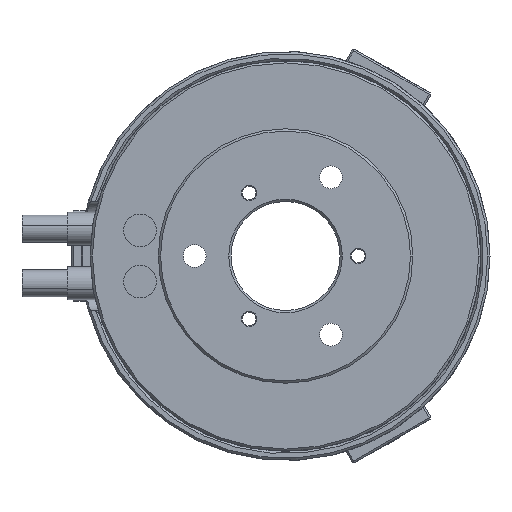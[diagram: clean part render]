
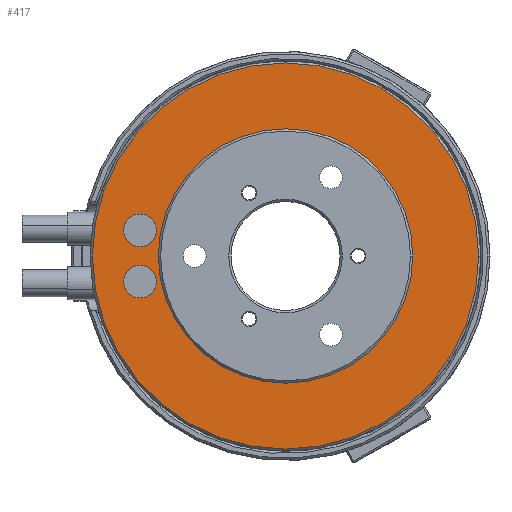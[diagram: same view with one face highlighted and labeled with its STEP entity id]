
A CAD part, front view. The second image highlights one B-rep face of the part: STEP entity #417.
In plain terms, the highlighted planar face has unit normal (0, -1, 0).
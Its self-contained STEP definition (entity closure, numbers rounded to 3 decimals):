
#352 = ORIENTED_EDGE ( 'NONE', *, *, #8682, .F. ) ;
#417 = ADVANCED_FACE ( 'NONE', ( #8531, #972, #8790, #1209 ), #3510, .T. ) ;
#452 = DIRECTION ( 'NONE',  ( 1., 0., 0. ) ) ;
#555 = VERTEX_POINT ( 'NONE', #4580 ) ;
#808 = CIRCLE ( 'NONE', #2832, 1.8 ) ;
#972 = FACE_BOUND ( 'NONE', #1405, .T. ) ;
#1199 = DIRECTION ( 'NONE',  ( 1., 0., 0. ) ) ;
#1209 = FACE_BOUND ( 'NONE', #4243, .T. ) ;
#1379 = DIRECTION ( 'NONE',  ( 0., 0., -1. ) ) ;
#1386 = CARTESIAN_POINT ( 'NONE',  ( -16.003, -12., -1.022 ) ) ;
#1405 = EDGE_LOOP ( 'NONE', ( #4850, #5040 ) ) ;
#1691 = AXIS2_PLACEMENT_3D ( 'NONE', #4004, #2498, #8750 ) ;
#1742 = AXIS2_PLACEMENT_3D ( 'NONE', #6294, #7081, #2396 ) ;
#2013 = CARTESIAN_POINT ( 'NONE',  ( -16.003, -12., -4.622 ) ) ;
#2179 = CARTESIAN_POINT ( 'NONE',  ( -16.003, -12., 2.822 ) ) ;
#2183 = EDGE_LOOP ( 'NONE', ( #2880, #4357 ) ) ;
#2243 = VERTEX_POINT ( 'NONE', #3917 ) ;
#2301 = EDGE_CURVE ( 'NONE', #5786, #8764, #7515, .T. ) ;
#2363 = AXIS2_PLACEMENT_3D ( 'NONE', #4811, #4776, #3266 ) ;
#2396 = DIRECTION ( 'NONE',  ( 1., 0., 0. ) ) ;
#2498 = DIRECTION ( 'NONE',  ( 0., -1., 0. ) ) ;
#2584 = EDGE_LOOP ( 'NONE', ( #5545, #8310 ) ) ;
#2832 = AXIS2_PLACEMENT_3D ( 'NONE', #2179, #3592, #1379 ) ;
#2854 = EDGE_CURVE ( 'NONE', #10010, #2243, #3391, .T. ) ;
#2880 = ORIENTED_EDGE ( 'NONE', *, *, #2854, .T. ) ;
#2990 = EDGE_CURVE ( 'NONE', #2243, #10010, #4372, .T. ) ;
#3244 = CIRCLE ( 'NONE', #8479, 1.8 ) ;
#3266 = DIRECTION ( 'NONE',  ( 1., 0., 0. ) ) ;
#3352 = CIRCLE ( 'NONE', #7863, 14. ) ;
#3391 = CIRCLE ( 'NONE', #6818, 21.25 ) ;
#3510 = PLANE ( 'NONE',  #7826 ) ;
#3592 = DIRECTION ( 'NONE',  ( 0., -1., 0. ) ) ;
#3640 = DIRECTION ( 'NONE',  ( 0., -1., 0. ) ) ;
#3677 = VERTEX_POINT ( 'NONE', #8864 ) ;
#3765 = CARTESIAN_POINT ( 'NONE',  ( 0., -12., 0. ) ) ;
#3895 = DIRECTION ( 'NONE',  ( 1., 0., 0. ) ) ;
#3917 = CARTESIAN_POINT ( 'NONE',  ( 21.25, -12., 0. ) ) ;
#3965 = CARTESIAN_POINT ( 'NONE',  ( -16.003, -12., 4.622 ) ) ;
#4004 = CARTESIAN_POINT ( 'NONE',  ( -16.003, -12., -2.822 ) ) ;
#4243 = EDGE_LOOP ( 'NONE', ( #352, #6033 ) ) ;
#4357 = ORIENTED_EDGE ( 'NONE', *, *, #2990, .T. ) ;
#4372 = CIRCLE ( 'NONE', #1742, 21.25 ) ;
#4580 = CARTESIAN_POINT ( 'NONE',  ( -14., -12., 0. ) ) ;
#4776 = DIRECTION ( 'NONE',  ( 0., -1., 0. ) ) ;
#4786 = DIRECTION ( 'NONE',  ( 0., 0., -1. ) ) ;
#4811 = CARTESIAN_POINT ( 'NONE',  ( 0., -12., 0. ) ) ;
#4850 = ORIENTED_EDGE ( 'NONE', *, *, #8705, .F. ) ;
#4888 = VERTEX_POINT ( 'NONE', #1386 ) ;
#5040 = ORIENTED_EDGE ( 'NONE', *, *, #10079, .F. ) ;
#5102 = CARTESIAN_POINT ( 'NONE',  ( 0., -12., 0. ) ) ;
#5232 = CARTESIAN_POINT ( 'NONE',  ( -16.003, -12., 2.822 ) ) ;
#5545 = ORIENTED_EDGE ( 'NONE', *, *, #2301, .F. ) ;
#5786 = VERTEX_POINT ( 'NONE', #10105 ) ;
#6033 = ORIENTED_EDGE ( 'NONE', *, *, #9933, .F. ) ;
#6294 = CARTESIAN_POINT ( 'NONE',  ( 0., -12., 0. ) ) ;
#6463 = CIRCLE ( 'NONE', #1691, 1.8 ) ;
#6602 = CIRCLE ( 'NONE', #2363, 14. ) ;
#6803 = DIRECTION ( 'NONE',  ( 0., 0., -1. ) ) ;
#6818 = AXIS2_PLACEMENT_3D ( 'NONE', #3765, #9365, #3895 ) ;
#7004 = CARTESIAN_POINT ( 'NONE',  ( -21.25, -12., 0. ) ) ;
#7081 = DIRECTION ( 'NONE',  ( 0., -1., 0. ) ) ;
#7515 = CIRCLE ( 'NONE', #9106, 1.8 ) ;
#7555 = CARTESIAN_POINT ( 'NONE',  ( 21.5, -12., 0. ) ) ;
#7826 = AXIS2_PLACEMENT_3D ( 'NONE', #7555, #9103, #1199 ) ;
#7863 = AXIS2_PLACEMENT_3D ( 'NONE', #5102, #9931, #452 ) ;
#7980 = CARTESIAN_POINT ( 'NONE',  ( -16.003, -12., -2.822 ) ) ;
#8021 = DIRECTION ( 'NONE',  ( 0., -1., 0. ) ) ;
#8057 = VERTEX_POINT ( 'NONE', #2013 ) ;
#8310 = ORIENTED_EDGE ( 'NONE', *, *, #9676, .F. ) ;
#8479 = AXIS2_PLACEMENT_3D ( 'NONE', #7980, #8021, #4786 ) ;
#8531 = FACE_BOUND ( 'NONE', #2584, .T. ) ;
#8682 = EDGE_CURVE ( 'NONE', #3677, #555, #6602, .T. ) ;
#8705 = EDGE_CURVE ( 'NONE', #8057, #4888, #6463, .T. ) ;
#8750 = DIRECTION ( 'NONE',  ( 0., 0., -1. ) ) ;
#8764 = VERTEX_POINT ( 'NONE', #3965 ) ;
#8790 = FACE_OUTER_BOUND ( 'NONE', #2183, .T. ) ;
#8864 = CARTESIAN_POINT ( 'NONE',  ( 14., -12., 0. ) ) ;
#9103 = DIRECTION ( 'NONE',  ( 0., -1., 0. ) ) ;
#9106 = AXIS2_PLACEMENT_3D ( 'NONE', #5232, #3640, #6803 ) ;
#9365 = DIRECTION ( 'NONE',  ( 0., -1., 0. ) ) ;
#9676 = EDGE_CURVE ( 'NONE', #8764, #5786, #808, .T. ) ;
#9931 = DIRECTION ( 'NONE',  ( 0., -1., 0. ) ) ;
#9933 = EDGE_CURVE ( 'NONE', #555, #3677, #3352, .T. ) ;
#10010 = VERTEX_POINT ( 'NONE', #7004 ) ;
#10079 = EDGE_CURVE ( 'NONE', #4888, #8057, #3244, .T. ) ;
#10105 = CARTESIAN_POINT ( 'NONE',  ( -16.003, -12., 1.022 ) ) ;
